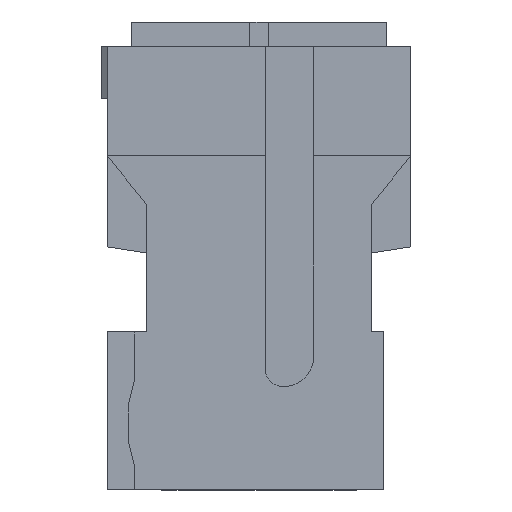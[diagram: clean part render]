
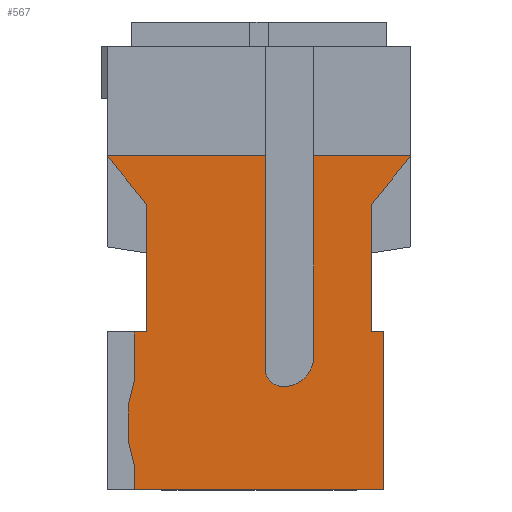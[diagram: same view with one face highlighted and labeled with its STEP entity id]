
A CAD part, left-side view. The second image highlights one B-rep face of the part: STEP entity #567.
In plain terms, the highlighted planar face has unit normal (-1, 0, 0).
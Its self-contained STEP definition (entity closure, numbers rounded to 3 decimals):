
#148=CARTESIAN_POINT('Vertex',(-3.2,1.85,4.7)) ;
#153=CARTESIAN_POINT('Line Origine',(-3.2,2.175,5.1)) ;
#157=CARTESIAN_POINT('Vertex',(-3.2,2.5,5.5)) ;
#401=CARTESIAN_POINT('Axis2P3D Location',(-3.2,2.5,5.5)) ;
#406=CARTESIAN_POINT('Line Origine',(-3.2,-1.375,5.5)) ;
#410=CARTESIAN_POINT('Vertex',(-3.2,-0.9,5.5)) ;
#412=CARTESIAN_POINT('Vertex',(-3.2,-1.85,5.5)) ;
#415=CARTESIAN_POINT('Line Origine',(-3.2,-0.9,3.85)) ;
#419=CARTESIAN_POINT('Vertex',(-3.2,-0.9,2.2)) ;
#422=CARTESIAN_POINT('Axis2P3D Location',(-3.2,-0.4,2.2)) ;
#426=CARTESIAN_POINT('Vertex',(-3.2,-0.4,1.7)) ;
#429=CARTESIAN_POINT('Axis2P3D Location',(-3.2,-0.4,2.)) ;
#433=CARTESIAN_POINT('Vertex',(-3.2,-0.1,2.)) ;
#436=CARTESIAN_POINT('Line Origine',(-3.2,-0.1,3.75)) ;
#440=CARTESIAN_POINT('Vertex',(-3.2,-0.1,5.5)) ;
#443=CARTESIAN_POINT('Line Origine',(-3.2,0.875,5.5)) ;
#447=CARTESIAN_POINT('Vertex',(-3.2,1.85,5.5)) ;
#450=CARTESIAN_POINT('Line Origine',(-3.2,2.175,5.5)) ;
#455=CARTESIAN_POINT('Line Origine',(-3.2,1.85,3.65)) ;
#459=CARTESIAN_POINT('Vertex',(-3.2,1.85,2.6)) ;
#462=CARTESIAN_POINT('Line Origine',(-3.2,1.95,2.6)) ;
#466=CARTESIAN_POINT('Vertex',(-3.2,2.05,2.6)) ;
#469=CARTESIAN_POINT('Line Origine',(-3.2,2.05,2.2)) ;
#473=CARTESIAN_POINT('Vertex',(-3.2,2.05,1.8)) ;
#476=CARTESIAN_POINT('Line Origine',(-3.2,2.1,1.6)) ;
#480=CARTESIAN_POINT('Vertex',(-3.2,2.15,1.4)) ;
#483=CARTESIAN_POINT('Line Origine',(-3.2,2.15,1.1)) ;
#487=CARTESIAN_POINT('Vertex',(-3.2,2.15,0.8)) ;
#490=CARTESIAN_POINT('Line Origine',(-3.2,2.1,0.6)) ;
#494=CARTESIAN_POINT('Vertex',(-3.2,2.05,0.4)) ;
#497=CARTESIAN_POINT('Line Origine',(-3.2,2.05,0.2)) ;
#501=CARTESIAN_POINT('Vertex',(-3.2,2.05,0.)) ;
#504=CARTESIAN_POINT('Line Origine',(-3.2,0.,0.)) ;
#508=CARTESIAN_POINT('Vertex',(-3.2,-2.05,0.)) ;
#511=CARTESIAN_POINT('Line Origine',(-3.2,-2.05,1.3)) ;
#515=CARTESIAN_POINT('Vertex',(-3.2,-2.05,2.6)) ;
#518=CARTESIAN_POINT('Line Origine',(-3.2,-1.95,2.6)) ;
#522=CARTESIAN_POINT('Vertex',(-3.2,-1.85,2.6)) ;
#525=CARTESIAN_POINT('Line Origine',(-3.2,-1.85,3.65)) ;
#529=CARTESIAN_POINT('Vertex',(-3.2,-1.85,4.7)) ;
#532=CARTESIAN_POINT('Line Origine',(-3.2,-2.175,5.1)) ;
#536=CARTESIAN_POINT('Vertex',(-3.2,-2.5,5.5)) ;
#539=CARTESIAN_POINT('Line Origine',(-3.2,-2.175,5.5)) ;
#154=DIRECTION('Vector Direction',(0.,-0.631,-0.776)) ;
#402=DIRECTION('Axis2P3D Direction',(-1.,0.,0.)) ;
#403=DIRECTION('Axis2P3D XDirection',(-0.,-0.,-1.)) ;
#407=DIRECTION('Vector Direction',(0.,-1.,0.)) ;
#416=DIRECTION('Vector Direction',(0.,0.,-1.)) ;
#423=DIRECTION('Axis2P3D Direction',(-1.,0.,0.)) ;
#430=DIRECTION('Axis2P3D Direction',(-1.,0.,0.)) ;
#437=DIRECTION('Vector Direction',(0.,0.,1.)) ;
#444=DIRECTION('Vector Direction',(0.,-1.,0.)) ;
#451=DIRECTION('Vector Direction',(0.,1.,0.)) ;
#456=DIRECTION('Vector Direction',(0.,0.,-1.)) ;
#463=DIRECTION('Vector Direction',(0.,-1.,0.)) ;
#470=DIRECTION('Vector Direction',(0.,0.,1.)) ;
#477=DIRECTION('Vector Direction',(0.,-0.243,0.97)) ;
#484=DIRECTION('Vector Direction',(0.,0.,1.)) ;
#491=DIRECTION('Vector Direction',(0.,0.243,0.97)) ;
#498=DIRECTION('Vector Direction',(0.,0.,1.)) ;
#505=DIRECTION('Vector Direction',(0.,-1.,0.)) ;
#512=DIRECTION('Vector Direction',(0.,0.,1.)) ;
#519=DIRECTION('Vector Direction',(0.,-1.,0.)) ;
#526=DIRECTION('Vector Direction',(0.,0.,-1.)) ;
#533=DIRECTION('Vector Direction',(0.,0.631,-0.776)) ;
#540=DIRECTION('Vector Direction',(0.,-1.,0.)) ;
#404=AXIS2_PLACEMENT_3D('Plane Axis2P3D',#401,#402,#403) ;
#424=AXIS2_PLACEMENT_3D('Circle Axis2P3D',#422,#423,$) ;
#431=AXIS2_PLACEMENT_3D('Circle Axis2P3D',#429,#430,$) ;
#545=ORIENTED_EDGE('',*,*,#414,.F.) ;
#546=ORIENTED_EDGE('',*,*,#421,.T.) ;
#547=ORIENTED_EDGE('',*,*,#428,.T.) ;
#548=ORIENTED_EDGE('',*,*,#435,.T.) ;
#549=ORIENTED_EDGE('',*,*,#442,.T.) ;
#550=ORIENTED_EDGE('',*,*,#449,.F.) ;
#551=ORIENTED_EDGE('',*,*,#454,.F.) ;
#552=ORIENTED_EDGE('',*,*,#159,.F.) ;
#553=ORIENTED_EDGE('',*,*,#461,.T.) ;
#554=ORIENTED_EDGE('',*,*,#468,.F.) ;
#555=ORIENTED_EDGE('',*,*,#475,.F.) ;
#556=ORIENTED_EDGE('',*,*,#482,.F.) ;
#557=ORIENTED_EDGE('',*,*,#489,.F.) ;
#558=ORIENTED_EDGE('',*,*,#496,.F.) ;
#559=ORIENTED_EDGE('',*,*,#503,.F.) ;
#560=ORIENTED_EDGE('',*,*,#510,.T.) ;
#561=ORIENTED_EDGE('',*,*,#517,.T.) ;
#562=ORIENTED_EDGE('',*,*,#524,.F.) ;
#563=ORIENTED_EDGE('',*,*,#531,.F.) ;
#564=ORIENTED_EDGE('',*,*,#538,.F.) ;
#565=ORIENTED_EDGE('',*,*,#543,.F.) ;
#155=VECTOR('Line Direction',#154,1.) ;
#408=VECTOR('Line Direction',#407,1.) ;
#417=VECTOR('Line Direction',#416,1.) ;
#438=VECTOR('Line Direction',#437,1.) ;
#445=VECTOR('Line Direction',#444,1.) ;
#452=VECTOR('Line Direction',#451,1.) ;
#457=VECTOR('Line Direction',#456,1.) ;
#464=VECTOR('Line Direction',#463,1.) ;
#471=VECTOR('Line Direction',#470,1.) ;
#478=VECTOR('Line Direction',#477,1.) ;
#485=VECTOR('Line Direction',#484,1.) ;
#492=VECTOR('Line Direction',#491,1.) ;
#499=VECTOR('Line Direction',#498,1.) ;
#506=VECTOR('Line Direction',#505,1.) ;
#513=VECTOR('Line Direction',#512,1.) ;
#520=VECTOR('Line Direction',#519,1.) ;
#527=VECTOR('Line Direction',#526,1.) ;
#534=VECTOR('Line Direction',#533,1.) ;
#541=VECTOR('Line Direction',#540,1.) ;
#567=ADVANCED_FACE('\X2\96F64EF651E04F554F53\X0\',(#566),#405,.T.) ;
#425=CIRCLE('generated circle',#424,0.5) ;
#432=CIRCLE('generated circle',#431,0.3) ;
#159=EDGE_CURVE('',#149,#158,#156,.F.) ;
#414=EDGE_CURVE('',#411,#413,#409,.T.) ;
#421=EDGE_CURVE('',#411,#420,#418,.T.) ;
#428=EDGE_CURVE('',#420,#427,#425,.F.) ;
#435=EDGE_CURVE('',#427,#434,#432,.F.) ;
#442=EDGE_CURVE('',#434,#441,#439,.T.) ;
#449=EDGE_CURVE('',#448,#441,#446,.T.) ;
#454=EDGE_CURVE('',#158,#448,#453,.F.) ;
#461=EDGE_CURVE('',#149,#460,#458,.T.) ;
#468=EDGE_CURVE('',#467,#460,#465,.T.) ;
#475=EDGE_CURVE('',#474,#467,#472,.T.) ;
#482=EDGE_CURVE('',#481,#474,#479,.T.) ;
#489=EDGE_CURVE('',#488,#481,#486,.T.) ;
#496=EDGE_CURVE('',#495,#488,#493,.T.) ;
#503=EDGE_CURVE('',#502,#495,#500,.T.) ;
#510=EDGE_CURVE('',#502,#509,#507,.T.) ;
#517=EDGE_CURVE('',#509,#516,#514,.T.) ;
#524=EDGE_CURVE('',#523,#516,#521,.T.) ;
#531=EDGE_CURVE('',#530,#523,#528,.T.) ;
#538=EDGE_CURVE('',#537,#530,#535,.T.) ;
#543=EDGE_CURVE('',#413,#537,#542,.T.) ;
#544=EDGE_LOOP('',(#545,#546,#547,#548,#549,#550,#551,#552,#553,#554,#555,#556,#557,#558,#559,#560,#561,#562,#563,#564,#565)) ;
#566=FACE_OUTER_BOUND('',#544,.T.) ;
#156=LINE('Line',#153,#155) ;
#409=LINE('Line',#406,#408) ;
#418=LINE('Line',#415,#417) ;
#439=LINE('Line',#436,#438) ;
#446=LINE('Line',#443,#445) ;
#453=LINE('Line',#450,#452) ;
#458=LINE('Line',#455,#457) ;
#465=LINE('Line',#462,#464) ;
#472=LINE('Line',#469,#471) ;
#479=LINE('Line',#476,#478) ;
#486=LINE('Line',#483,#485) ;
#493=LINE('Line',#490,#492) ;
#500=LINE('Line',#497,#499) ;
#507=LINE('Line',#504,#506) ;
#514=LINE('Line',#511,#513) ;
#521=LINE('Line',#518,#520) ;
#528=LINE('Line',#525,#527) ;
#535=LINE('Line',#532,#534) ;
#542=LINE('Line',#539,#541) ;
#405=PLANE('Plane',#404) ;
#149=VERTEX_POINT('',#148) ;
#158=VERTEX_POINT('',#157) ;
#411=VERTEX_POINT('',#410) ;
#413=VERTEX_POINT('',#412) ;
#420=VERTEX_POINT('',#419) ;
#427=VERTEX_POINT('',#426) ;
#434=VERTEX_POINT('',#433) ;
#441=VERTEX_POINT('',#440) ;
#448=VERTEX_POINT('',#447) ;
#460=VERTEX_POINT('',#459) ;
#467=VERTEX_POINT('',#466) ;
#474=VERTEX_POINT('',#473) ;
#481=VERTEX_POINT('',#480) ;
#488=VERTEX_POINT('',#487) ;
#495=VERTEX_POINT('',#494) ;
#502=VERTEX_POINT('',#501) ;
#509=VERTEX_POINT('',#508) ;
#516=VERTEX_POINT('',#515) ;
#523=VERTEX_POINT('',#522) ;
#530=VERTEX_POINT('',#529) ;
#537=VERTEX_POINT('',#536) ;
